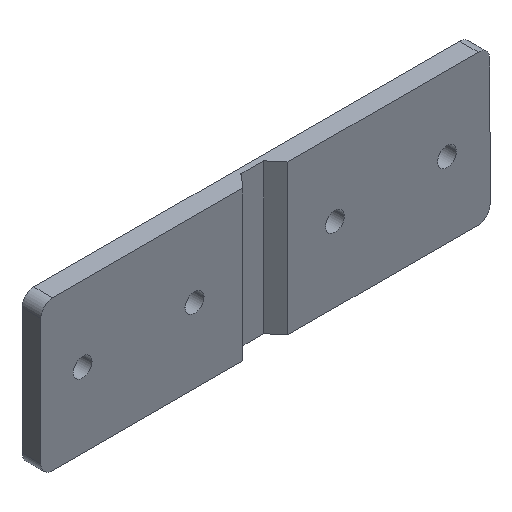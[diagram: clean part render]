
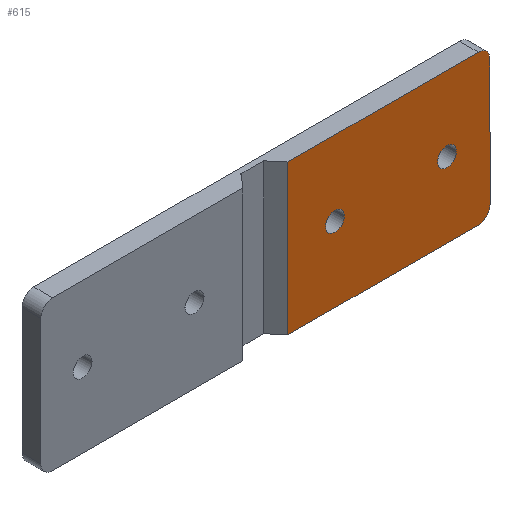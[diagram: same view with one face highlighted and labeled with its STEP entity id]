
A CAD part, isometric view. The second image highlights one B-rep face of the part: STEP entity #615.
In plain terms, the highlighted planar face has unit normal (0, -1, 0).
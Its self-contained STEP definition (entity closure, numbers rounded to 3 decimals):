
#227=CARTESIAN_POINT('',(13.4,-1.6,0.));
#228=VERTEX_POINT('',#227);
#244=CARTESIAN_POINT('',(10.2,-1.6,0.));
#245=VERTEX_POINT('',#244);
#252=CARTESIAN_POINT('',(11.8,-1.6,0.));
#253=DIRECTION('',(0.0,1.0,0.0));
#254=DIRECTION('',(1.0,0.0,0.0));
#255=AXIS2_PLACEMENT_3D('',#252,#253,#254);
#256=CIRCLE('',#255,1.6);
#257=EDGE_CURVE('',#228,#245,#256,.T.);
#269=CARTESIAN_POINT('',(32.4,-1.6,0.));
#270=VERTEX_POINT('',#269);
#286=CARTESIAN_POINT('',(29.2,-1.6,0.));
#287=VERTEX_POINT('',#286);
#294=CARTESIAN_POINT('',(30.8,-1.6,0.));
#295=DIRECTION('',(0.0,1.0,0.0));
#296=DIRECTION('',(1.0,0.0,0.0));
#297=AXIS2_PLACEMENT_3D('',#294,#295,#296);
#298=CIRCLE('',#297,1.6);
#299=EDGE_CURVE('',#270,#287,#298,.T.);
#310=CARTESIAN_POINT('',(30.8,-1.6,0.));
#311=DIRECTION('',(0.0,1.0,0.0));
#312=DIRECTION('',(1.0,0.0,0.0));
#313=AXIS2_PLACEMENT_3D('',#310,#311,#312);
#314=CIRCLE('',#313,1.6);
#315=EDGE_CURVE('',#287,#270,#314,.T.);
#334=CARTESIAN_POINT('',(11.8,-1.6,0.));
#335=DIRECTION('',(0.0,1.0,0.0));
#336=DIRECTION('',(1.0,0.0,0.0));
#337=AXIS2_PLACEMENT_3D('',#334,#335,#336);
#338=CIRCLE('',#337,1.6);
#339=EDGE_CURVE('',#245,#228,#338,.T.);
#476=CARTESIAN_POINT('',(3.81,-1.6,12.7));
#477=VERTEX_POINT('',#476);
#485=CARTESIAN_POINT('',(3.81,-1.6,-12.7));
#486=VERTEX_POINT('',#485);
#493=CARTESIAN_POINT('',(3.81,-1.6,12.7));
#494=DIRECTION('',(0.0,0.0,-1.0));
#495=VECTOR('',#494,25.4);
#496=LINE('',#493,#495);
#497=EDGE_CURVE('',#477,#486,#496,.T.);
#559=CARTESIAN_POINT('',(0.,-1.6,0.0));
#560=DIRECTION('',(0.0,-1.0,0.0));
#561=DIRECTION('',(1.0,0.0,0.0));
#562=AXIS2_PLACEMENT_3D('',#559,#560,#561);
#563=PLANE('',#562);
#564=ORIENTED_EDGE('',*,*,#497,.T.);
#565=CARTESIAN_POINT('',(36.1,-1.6,-12.7));
#566=VERTEX_POINT('',#565);
#567=CARTESIAN_POINT('',(36.1,-1.6,-12.7));
#568=DIRECTION('',(-1.0,0.0,0.0));
#569=VECTOR('',#568,32.29);
#570=LINE('',#567,#569);
#571=EDGE_CURVE('',#566,#486,#570,.T.);
#572=ORIENTED_EDGE('',*,*,#571,.F.);
#573=CARTESIAN_POINT('',(38.1,-1.6,-10.7));
#574=VERTEX_POINT('',#573);
#575=CARTESIAN_POINT('',(36.1,-1.6,-10.7));
#576=DIRECTION('',(0.0,1.0,0.0));
#577=DIRECTION('',(1.0,0.0,0.0));
#578=AXIS2_PLACEMENT_3D('',#575,#576,#577);
#579=CIRCLE('',#578,2.0);
#580=EDGE_CURVE('',#574,#566,#579,.T.);
#581=ORIENTED_EDGE('',*,*,#580,.F.);
#582=CARTESIAN_POINT('',(38.1,-1.6,10.7));
#583=VERTEX_POINT('',#582);
#584=CARTESIAN_POINT('',(38.1,-1.6,10.7));
#585=DIRECTION('',(0.0,0.0,-1.0));
#586=VECTOR('',#585,21.4);
#587=LINE('',#584,#586);
#588=EDGE_CURVE('',#583,#574,#587,.T.);
#589=ORIENTED_EDGE('',*,*,#588,.F.);
#590=CARTESIAN_POINT('',(36.1,-1.6,12.7));
#591=VERTEX_POINT('',#590);
#592=CARTESIAN_POINT('',(36.1,-1.6,10.7));
#593=DIRECTION('',(0.0,1.0,0.0));
#594=DIRECTION('',(1.0,0.0,0.0));
#595=AXIS2_PLACEMENT_3D('',#592,#593,#594);
#596=CIRCLE('',#595,2.0);
#597=EDGE_CURVE('',#591,#583,#596,.T.);
#598=ORIENTED_EDGE('',*,*,#597,.F.);
#599=CARTESIAN_POINT('',(3.81,-1.6,12.7));
#600=DIRECTION('',(1.0,0.0,0.0));
#601=VECTOR('',#600,32.29);
#602=LINE('',#599,#601);
#603=EDGE_CURVE('',#477,#591,#602,.T.);
#604=ORIENTED_EDGE('',*,*,#603,.F.);
#605=EDGE_LOOP('',(#564,#572,#581,#589,#598,#604));
#606=FACE_OUTER_BOUND('',#605,.T.);
#607=ORIENTED_EDGE('',*,*,#299,.T.);
#608=ORIENTED_EDGE('',*,*,#315,.T.);
#609=EDGE_LOOP('',(#607,#608));
#610=FACE_BOUND('',#609,.T.);
#611=ORIENTED_EDGE('',*,*,#257,.T.);
#612=ORIENTED_EDGE('',*,*,#339,.T.);
#613=EDGE_LOOP('',(#611,#612));
#614=FACE_BOUND('',#613,.T.);
#615=ADVANCED_FACE('',(#606,#610,#614),#563,.T.);
